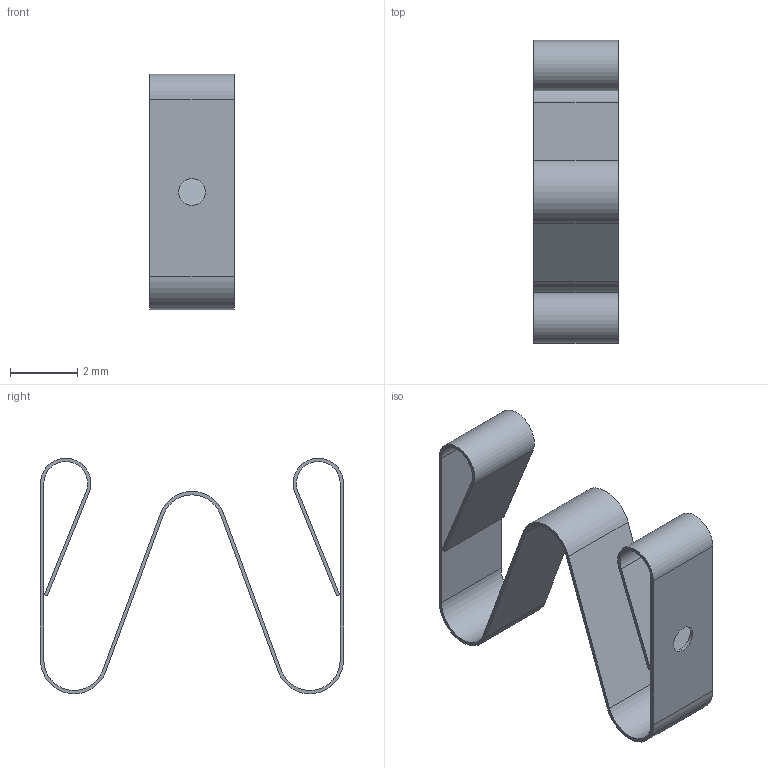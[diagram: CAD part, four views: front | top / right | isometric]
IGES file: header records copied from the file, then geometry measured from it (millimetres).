
Start section:  PTC IGES file: 3G2570090B.igs
Global section: file name: 3G2570090B.igs; native system: Creo Parametric by PTC Inc.; preprocessor: 2015200; author: jairo; organization: Unknown; date: 20180315.133639; units: millimetre
Bounding box: 2.5 x 9 x 7 mm (x, y, z)
Surface area: 205.6 mm2 (no closed solid volume)
Topology: 0 solids, 0 shells, 28 faces, 156 edges, 156 vertices
Faces by surface type: bspline 16, revolution 12
